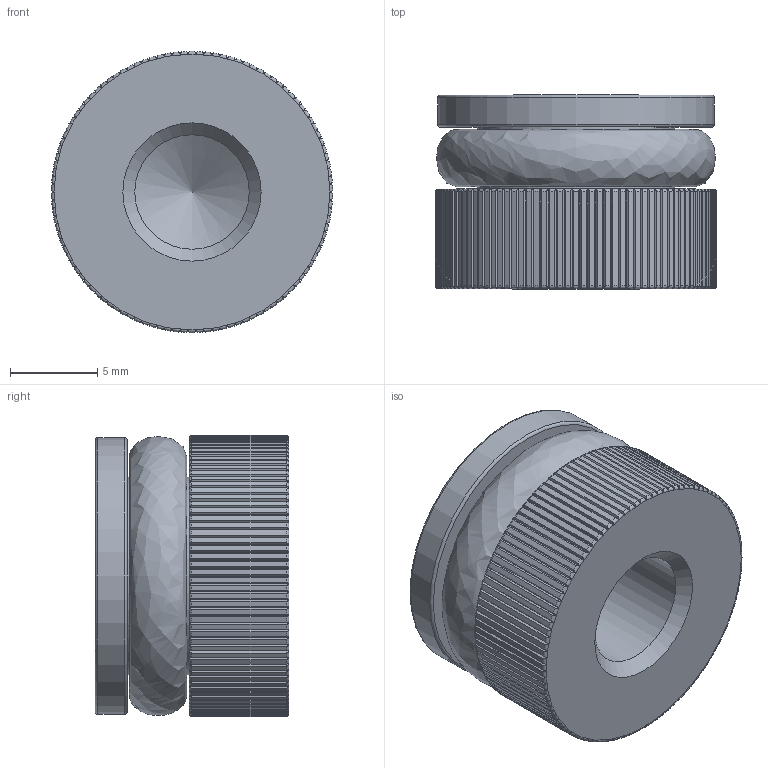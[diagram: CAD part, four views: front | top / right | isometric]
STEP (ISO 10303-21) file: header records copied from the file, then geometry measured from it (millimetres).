
FILE_DESCRIPTION(/* description */ (''),/* implementation_level */ '2;1');
FILE_NAME(/* name */ 'C:/Users/drich/Desktop/TIP-625 v1.step',/* time_stamp */ '2020-01-08T20:03:15-06:00',/* author */ (''),/* organization */ (''),/* preprocessor_version */ 'ST-DEVELOPER v18',/* originating_system */ 'Autodesk Translation Framework v8.12.0.6',/* authorisation */ '');
FILE_SCHEMA (('AUTOMOTIVE_DESIGN { 1 0 10303 214 3 1 1 }'));
Length unit declared in the file: inch
Products named in the file (1): TIP-625
Bounding box: 16.13 x 11.1 x 16.13 mm (x, y, z)
Volume: 1854.6 mm3; surface area: 1724.5 mm2
Topology: 2 solids, 2 shells, 344 faces, 1026 edges, 686 vertices
Faces by surface type: plane 224, cylinder 113, torus 4, cone 2, bspline 1
Full cylindrical faces by diameter (mm): 6.566 x1, 11.328 x1, 15.875 x1
Entity records: 14764 total; most frequent: CARTESIAN_POINT 6096, ORIENTED_EDGE 2050, DIRECTION 1523, EDGE_CURVE 1025, VERTEX_POINT 686, AXIS2_PLACEMENT_3D 594, B_SPLINE_CURVE_WITH_KNOTS 440, EDGE_LOOP 347
